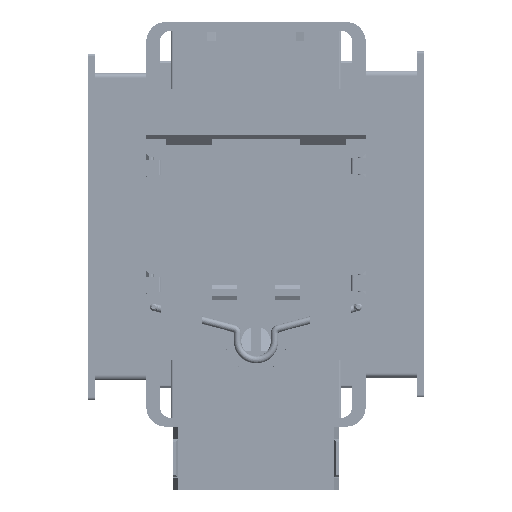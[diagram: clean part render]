
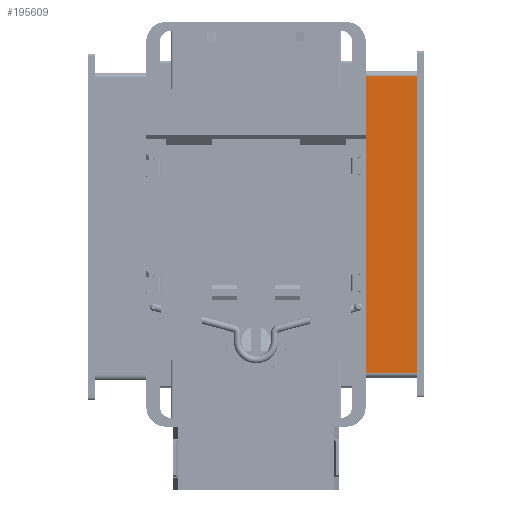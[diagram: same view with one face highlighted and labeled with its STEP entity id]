
A CAD part, front view. The second image highlights one B-rep face of the part: STEP entity #195609.
In plain terms, the highlighted planar face has unit normal (0, -1, 0).
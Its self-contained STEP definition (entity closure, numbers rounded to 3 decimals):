
#186798=DIRECTION('',(0.,0.,1.));
#186799=VECTOR('',#186798,10.5);
#186800=CARTESIAN_POINT('',(30.5,-40.,-6.));
#186801=LINE('',#186800,#186799);
#186806=DIRECTION('',(-1.,0.,0.));
#186807=VECTOR('',#186806,61.);
#186808=CARTESIAN_POINT('',(30.5,-40.,-6.));
#186809=LINE('',#186808,#186807);
#186814=DIRECTION('',(0.,0.,-1.));
#186815=VECTOR('',#186814,10.5);
#186816=CARTESIAN_POINT('',(-30.5,-40.,4.5));
#186817=LINE('',#186816,#186815);
#187445=DIRECTION('',(-1.,0.,0.));
#187446=VECTOR('',#187445,61.);
#187447=CARTESIAN_POINT('',(30.5,-40.,4.5));
#187448=LINE('',#187447,#187446);
#193194=CARTESIAN_POINT('',(30.5,-40.,-6.));
#193196=VERTEX_POINT('',#193194);
#193220=CARTESIAN_POINT('',(-30.5,-40.,-6.));
#193221=VERTEX_POINT('',#193220);
#194081=CARTESIAN_POINT('',(30.5,-40.,4.5));
#194083=VERTEX_POINT('',#194081);
#194084=CARTESIAN_POINT('',(-30.5,-40.,4.5));
#194085=VERTEX_POINT('',#194084);
#195596=CARTESIAN_POINT('',(-31.5,-40.,0.));
#195597=DIRECTION('',(0.,-1.,0.));
#195598=DIRECTION('',(1.,0.,0.));
#195599=AXIS2_PLACEMENT_3D('',#195596,#195597,#195598);
#195600=PLANE('',#195599);
#195601=ORIENTED_EDGE('',*,*,#195586,.F.);
#195602=ORIENTED_EDGE('',*,*,#195342,.T.);
#195604=ORIENTED_EDGE('',*,*,#195603,.F.);
#195606=ORIENTED_EDGE('',*,*,#195605,.F.);
#195607=EDGE_LOOP('',(#195601,#195602,#195604,#195606));
#195608=FACE_OUTER_BOUND('',#195607,.F.);
#195342=EDGE_CURVE('',#193196,#193221,#186809,.T.);
#195586=EDGE_CURVE('',#193196,#194083,#186801,.T.);
#195603=EDGE_CURVE('',#194085,#193221,#186817,.T.);
#195605=EDGE_CURVE('',#194083,#194085,#187448,.T.);
#195609=ADVANCED_FACE('',(#195608),#195600,.T.);
